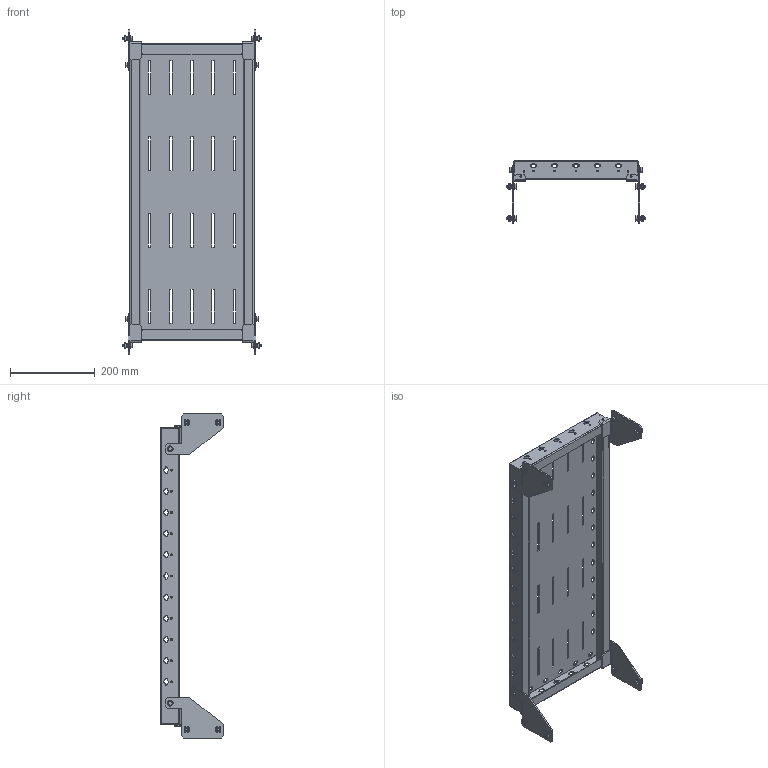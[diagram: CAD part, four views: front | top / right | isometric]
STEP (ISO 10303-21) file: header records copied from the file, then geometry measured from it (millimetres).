
FILE_DESCRIPTION (( 'STEP AP203' ), '1' );
FILE_NAME ('R5RFE48.STEP', '2022-06-29T08:38:54', ( '' ), ( '' ), 'SwSTEP 2.0', 'SolidWorks 2020', '' );
FILE_SCHEMA (( 'CONFIG_CONTROL_DESIGN' ));
Length unit declared in the file: millimetre
Products named in the file (7): RB.1704.00.00.0_- 01; RB.1704.00.00.0_-00; RB.2364.00.00.0_01; M6 A3400002 Zinc_thread; Ì6 D87181 Zinc_In a tightened position (1.5 mm); M6x16 DIN 6921 cl.8,8 Zinc_thread; R5RFE48
Assembly tree (29 placements, depth 2):
  R5RFE48
    RB.2364.00.00.0_01
    RB.1704.00.00.0_- 01  x2
    M6 A3400002 Zinc_thread  x8
    M6x16 DIN 6921 cl.8,8 Zinc_thread  x12
    RB.1704.00.00.0_-00  x2
    Ì6 D87181 Zinc_In a tightened position (1.5 mm)  x4
Bounding box: 326 x 148.6 x 765 mm (x, y, z)
Volume: 803552.8 mm3; surface area: 797630.7 mm2
Topology: 29 solids, 29 shells, 4938 faces, 13528 edges, 8596 vertices
Faces by surface type: cylinder 1956, plane 1594, cone 1076, bspline 216, torus 96
Entity records: 70778 total; most frequent: CARTESIAN_POINT 14425, DIRECTION 11807, ORIENTED_EDGE 11612, EDGE_CURVE 5806, AXIS2_PLACEMENT_3D 4243, VERTEX_POINT 3783, LINE 3321, VECTOR 3321
